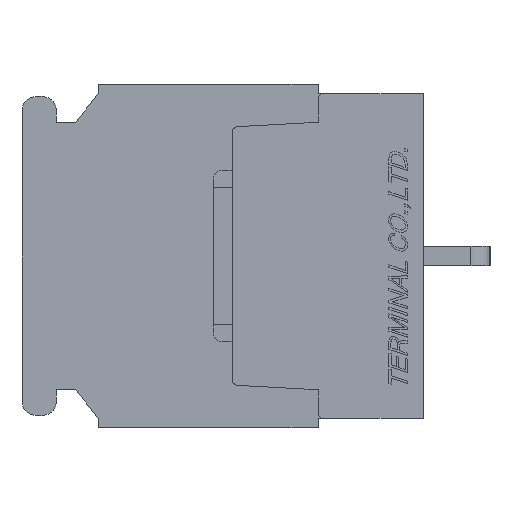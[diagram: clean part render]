
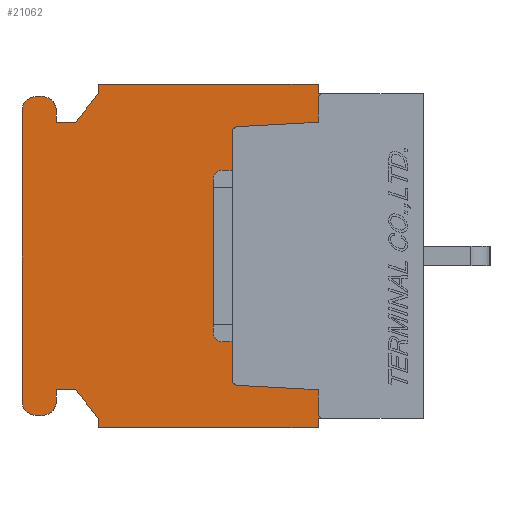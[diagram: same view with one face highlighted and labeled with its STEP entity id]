
A CAD part, left-side view. The second image highlights one B-rep face of the part: STEP entity #21062.
In plain terms, the highlighted planar face has unit normal (-1, 0, 0).
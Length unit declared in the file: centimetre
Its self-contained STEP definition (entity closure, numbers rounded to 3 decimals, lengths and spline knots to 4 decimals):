
#1020=CIRCLE('',#35680,0.03);
#1022=CIRCLE('',#35683,0.03);
#1024=CIRCLE('',#35688,0.03);
#1028=CIRCLE('',#35694,0.03);
#1036=CIRCLE('',#35851,0.075);
#1037=CIRCLE('',#35852,0.075);
#1038=CIRCLE('',#35853,0.075);
#1039=CIRCLE('',#35854,0.075);
#1751=VERTEX_POINT('',#28803);
#1752=VERTEX_POINT('',#28805);
#1755=VERTEX_POINT('',#28812);
#1756=VERTEX_POINT('',#28814);
#1758=VERTEX_POINT('',#28820);
#1760=VERTEX_POINT('',#28826);
#1762=VERTEX_POINT('',#28832);
#1767=VERTEX_POINT('',#28844);
#1768=VERTEX_POINT('',#28846);
#1770=VERTEX_POINT('',#28852);
#2129=VERTEX_POINT('',#30422);
#2130=VERTEX_POINT('',#30424);
#2131=VERTEX_POINT('',#30426);
#2132=VERTEX_POINT('',#30428);
#2133=VERTEX_POINT('',#30430);
#2134=VERTEX_POINT('',#30432);
#2135=VERTEX_POINT('',#30434);
#2136=VERTEX_POINT('',#30436);
#2137=VERTEX_POINT('',#30438);
#2138=VERTEX_POINT('',#30440);
#2139=VERTEX_POINT('',#30442);
#2140=VERTEX_POINT('',#30444);
#2141=VERTEX_POINT('',#30446);
#2142=VERTEX_POINT('',#30448);
#2143=VERTEX_POINT('',#30450);
#2144=VERTEX_POINT('',#30452);
#2145=VERTEX_POINT('',#30454);
#2146=VERTEX_POINT('',#30456);
#2147=VERTEX_POINT('',#30458);
#2148=VERTEX_POINT('',#30460);
#3980=VECTOR('',#23592,1.);
#3983=VECTOR('',#23596,1.);
#3989=VECTOR('',#23620,1.);
#3992=VECTOR('',#23624,1.);
#4394=VECTOR('',#24158,1.);
#4421=VECTOR('',#24218,1.);
#4422=VECTOR('',#24219,1.);
#4423=VECTOR('',#24220,1.);
#4424=VECTOR('',#24221,1.);
#4425=VECTOR('',#24222,1.);
#4426=VECTOR('',#24223,1.);
#4427=VECTOR('',#24224,1.);
#4428=VECTOR('',#24227,1.);
#4429=VECTOR('',#24230,1.);
#4430=VECTOR('',#24233,1.);
#4431=VECTOR('',#24236,1.);
#4432=VECTOR('',#24237,1.);
#4433=VECTOR('',#24238,1.);
#4434=VECTOR('',#24239,1.);
#4435=VECTOR('',#24240,1.);
#4436=VECTOR('',#24241,1.);
#4437=VECTOR('',#24242,1.);
#6368=LINE('',#28819,#3980);
#6371=LINE('',#28825,#3983);
#6377=LINE('',#28851,#3989);
#6380=LINE('',#28856,#3992);
#6782=LINE('',#30353,#4394);
#6809=LINE('',#30421,#4421);
#6810=LINE('',#30423,#4422);
#6811=LINE('',#30425,#4423);
#6812=LINE('',#30427,#4424);
#6813=LINE('',#30429,#4425);
#6814=LINE('',#30431,#4426);
#6815=LINE('',#30433,#4427);
#6816=LINE('',#30437,#4428);
#6817=LINE('',#30441,#4429);
#6818=LINE('',#30445,#4430);
#6819=LINE('',#30449,#4431);
#6820=LINE('',#30451,#4432);
#6821=LINE('',#30453,#4433);
#6822=LINE('',#30455,#4434);
#6823=LINE('',#30457,#4435);
#6824=LINE('',#30459,#4436);
#6825=LINE('',#30461,#4437);
#8911=EDGE_CURVE('',#1751,#1752,#1020,.T.);
#8915=EDGE_CURVE('',#1755,#1756,#1022,.T.);
#8918=EDGE_CURVE('',#1756,#1758,#6368,.T.);
#8921=EDGE_CURVE('',#1758,#1760,#6371,.T.);
#8924=EDGE_CURVE('',#1760,#1762,#1024,.T.);
#8930=EDGE_CURVE('',#1767,#1768,#1028,.T.);
#8933=EDGE_CURVE('',#1768,#1770,#6377,.T.);
#8936=EDGE_CURVE('',#1770,#1751,#6380,.T.);
#9444=EDGE_CURVE('',#1762,#1767,#6782,.T.);
#9477=EDGE_CURVE('',#1755,#2129,#6809,.T.);
#9478=EDGE_CURVE('',#2129,#2130,#6810,.T.);
#9479=EDGE_CURVE('',#2130,#2131,#6811,.T.);
#9480=EDGE_CURVE('',#2131,#2132,#6812,.T.);
#9481=EDGE_CURVE('',#2132,#2133,#6813,.T.);
#9482=EDGE_CURVE('',#2133,#2134,#6814,.T.);
#9483=EDGE_CURVE('',#2134,#2135,#6815,.T.);
#9484=EDGE_CURVE('',#2136,#2135,#1036,.T.);
#9485=EDGE_CURVE('',#2136,#2137,#6816,.T.);
#9486=EDGE_CURVE('',#2138,#2137,#1037,.T.);
#9487=EDGE_CURVE('',#2138,#2139,#6817,.T.);
#9488=EDGE_CURVE('',#2140,#2139,#1038,.T.);
#9489=EDGE_CURVE('',#2140,#2141,#6818,.T.);
#9490=EDGE_CURVE('',#2142,#2141,#1039,.T.);
#9491=EDGE_CURVE('',#2142,#2143,#6819,.T.);
#9492=EDGE_CURVE('',#2143,#2144,#6820,.T.);
#9493=EDGE_CURVE('',#2144,#2145,#6821,.T.);
#9494=EDGE_CURVE('',#2145,#2146,#6822,.T.);
#9495=EDGE_CURVE('',#2146,#2147,#6823,.T.);
#9496=EDGE_CURVE('',#2147,#2148,#6824,.T.);
#9497=EDGE_CURVE('',#2148,#1752,#6825,.T.);
#13923=ORIENTED_EDGE('',*,*,#8915,.F.);
#13924=ORIENTED_EDGE('',*,*,#9477,.T.);
#13925=ORIENTED_EDGE('',*,*,#9478,.T.);
#13926=ORIENTED_EDGE('',*,*,#9479,.T.);
#13927=ORIENTED_EDGE('',*,*,#9480,.T.);
#13928=ORIENTED_EDGE('',*,*,#9481,.T.);
#13929=ORIENTED_EDGE('',*,*,#9482,.T.);
#13930=ORIENTED_EDGE('',*,*,#9483,.T.);
#13931=ORIENTED_EDGE('',*,*,#9484,.F.);
#13932=ORIENTED_EDGE('',*,*,#9485,.T.);
#13933=ORIENTED_EDGE('',*,*,#9486,.F.);
#13934=ORIENTED_EDGE('',*,*,#9487,.T.);
#13935=ORIENTED_EDGE('',*,*,#9488,.F.);
#13936=ORIENTED_EDGE('',*,*,#9489,.T.);
#13937=ORIENTED_EDGE('',*,*,#9490,.F.);
#13938=ORIENTED_EDGE('',*,*,#9491,.T.);
#13939=ORIENTED_EDGE('',*,*,#9492,.T.);
#13940=ORIENTED_EDGE('',*,*,#9493,.T.);
#13941=ORIENTED_EDGE('',*,*,#9494,.T.);
#13942=ORIENTED_EDGE('',*,*,#9495,.T.);
#13943=ORIENTED_EDGE('',*,*,#9496,.T.);
#13944=ORIENTED_EDGE('',*,*,#9497,.T.);
#13945=ORIENTED_EDGE('',*,*,#8911,.F.);
#13946=ORIENTED_EDGE('',*,*,#8936,.F.);
#13947=ORIENTED_EDGE('',*,*,#8933,.F.);
#13948=ORIENTED_EDGE('',*,*,#8930,.F.);
#13949=ORIENTED_EDGE('',*,*,#9444,.F.);
#13950=ORIENTED_EDGE('',*,*,#8924,.F.);
#13951=ORIENTED_EDGE('',*,*,#8921,.F.);
#13952=ORIENTED_EDGE('',*,*,#8918,.F.);
#18383=EDGE_LOOP('',(#13923,#13924,#13925,#13926,#13927,#13928,#13929,#13930,
#13931,#13932,#13933,#13934,#13935,#13936,#13937,#13938,#13939,#13940,#13941,
#13942,#13943,#13944,#13945,#13946,#13947,#13948,#13949,#13950,#13951,#13952));
#19747=FACE_BOUND('',#18383,.T.);
#21062=ADVANCED_FACE('',(#19747),#22160,.F.);
#22160=PLANE('',#35850);
#23579=DIRECTION('',(-1.,0.,0.));
#23580=DIRECTION('',(0.,0.,0.03));
#23587=DIRECTION('',(-1.,0.,0.));
#23588=DIRECTION('',(0.,0.,0.03));
#23592=DIRECTION('',(0.,0.,-1.));
#23596=DIRECTION('',(0.,0.999,-0.054));
#23602=DIRECTION('',(-1.,0.,0.));
#23603=DIRECTION('',(0.,0.,0.03));
#23615=DIRECTION('',(-1.,0.,0.));
#23616=DIRECTION('',(0.,0.,0.03));
#23620=DIRECTION('',(0.,-0.999,-0.054));
#23624=DIRECTION('',(0.,0.,-1.));
#24158=DIRECTION('',(0.,0.,-1.));
#24217=DIRECTION('',(1.,0.,0.));
#24218=DIRECTION('',(0.,1.,0.));
#24219=DIRECTION('',(0.,0.,1.));
#24220=DIRECTION('',(0.,1.,0.));
#24221=DIRECTION('',(0.,0.,-1.));
#24222=DIRECTION('',(0.,0.625,-0.781));
#24223=DIRECTION('',(0.,1.,0.));
#24224=DIRECTION('',(0.,0.,1.));
#24225=DIRECTION('',(1.,0.,0.));
#24226=DIRECTION('',(0.,0.,-0.075));
#24227=DIRECTION('',(0.,1.,0.));
#24228=DIRECTION('',(1.,0.,0.));
#24229=DIRECTION('',(0.,0.,-0.075));
#24230=DIRECTION('',(0.,0.,-1.));
#24231=DIRECTION('',(1.,0.,0.));
#24232=DIRECTION('',(0.,0.,-0.075));
#24233=DIRECTION('',(0.,-1.,0.));
#24234=DIRECTION('',(1.,0.,0.));
#24235=DIRECTION('',(0.,0.,-0.075));
#24236=DIRECTION('',(0.,0.,1.));
#24237=DIRECTION('',(0.,-1.,0.));
#24238=DIRECTION('',(0.,-0.625,-0.781));
#24239=DIRECTION('',(0.,0.,-1.));
#24240=DIRECTION('',(0.,-1.,0.));
#24241=DIRECTION('',(0.,0.,1.));
#24242=DIRECTION('',(0.,-1.,0.));
#28803=CARTESIAN_POINT('',(-1.3,0.55,-0.82));
#28804=CARTESIAN_POINT('',(-1.3,0.52,-0.82));
#28805=CARTESIAN_POINT('',(-1.3,0.52,-0.85));
#28812=CARTESIAN_POINT('',(-1.3,0.52,0.85));
#28813=CARTESIAN_POINT('',(-1.3,0.52,0.82));
#28814=CARTESIAN_POINT('',(-1.3,0.55,0.82));
#28819=CARTESIAN_POINT('',(-1.3,0.55,0.82));
#28820=CARTESIAN_POINT('',(-1.3,0.55,0.7));
#28825=CARTESIAN_POINT('',(-1.3,0.55,0.7));
#28826=CARTESIAN_POINT('',(-1.3,0.9718,0.6773));
#28831=CARTESIAN_POINT('',(-1.3,0.97,0.6473));
#28832=CARTESIAN_POINT('',(-1.3,1.,0.6473));
#28844=CARTESIAN_POINT('',(-1.3,1.,-0.6473));
#28845=CARTESIAN_POINT('',(-1.3,0.97,-0.6473));
#28846=CARTESIAN_POINT('',(-1.3,0.9718,-0.6773));
#28851=CARTESIAN_POINT('',(-1.3,0.9718,-0.6773));
#28852=CARTESIAN_POINT('',(-1.3,0.55,-0.7));
#28856=CARTESIAN_POINT('',(-1.3,0.55,-0.7));
#30353=CARTESIAN_POINT('',(-1.3,1.,0.6473));
#30420=CARTESIAN_POINT('',(-1.3,1.0745,0.));
#30421=CARTESIAN_POINT('',(-1.3,0.,0.85));
#30422=CARTESIAN_POINT('',(-1.3,0.55,0.85));
#30423=CARTESIAN_POINT('',(-1.3,0.55,0.85));
#30424=CARTESIAN_POINT('',(-1.3,0.55,0.9));
#30425=CARTESIAN_POINT('',(-1.3,0.55,0.9));
#30426=CARTESIAN_POINT('',(-1.3,1.7,0.9));
#30427=CARTESIAN_POINT('',(-1.3,1.7,0.9));
#30428=CARTESIAN_POINT('',(-1.3,1.7,0.85));
#30429=CARTESIAN_POINT('',(-1.3,1.7,0.85));
#30430=CARTESIAN_POINT('',(-1.3,1.82,0.7));
#30431=CARTESIAN_POINT('',(-1.3,1.82,0.7));
#30432=CARTESIAN_POINT('',(-1.3,1.92,0.7));
#30433=CARTESIAN_POINT('',(-1.3,1.92,0.7));
#30434=CARTESIAN_POINT('',(-1.3,1.92,0.76));
#30435=CARTESIAN_POINT('',(-1.3,1.995,0.76));
#30436=CARTESIAN_POINT('',(-1.3,1.995,0.835));
#30437=CARTESIAN_POINT('',(-1.3,1.995,0.835));
#30438=CARTESIAN_POINT('',(-1.3,2.025,0.835));
#30439=CARTESIAN_POINT('',(-1.3,2.025,0.76));
#30440=CARTESIAN_POINT('',(-1.3,2.1,0.76));
#30441=CARTESIAN_POINT('',(-1.3,2.1,0.76));
#30442=CARTESIAN_POINT('',(-1.3,2.1,-0.76));
#30443=CARTESIAN_POINT('',(-1.3,2.025,-0.76));
#30444=CARTESIAN_POINT('',(-1.3,2.025,-0.835));
#30445=CARTESIAN_POINT('',(-1.3,2.025,-0.835));
#30446=CARTESIAN_POINT('',(-1.3,1.995,-0.835));
#30447=CARTESIAN_POINT('',(-1.3,1.995,-0.76));
#30448=CARTESIAN_POINT('',(-1.3,1.92,-0.76));
#30449=CARTESIAN_POINT('',(-1.3,1.92,-0.76));
#30450=CARTESIAN_POINT('',(-1.3,1.92,-0.7));
#30451=CARTESIAN_POINT('',(-1.3,1.92,-0.7));
#30452=CARTESIAN_POINT('',(-1.3,1.82,-0.7));
#30453=CARTESIAN_POINT('',(-1.3,1.82,-0.7));
#30454=CARTESIAN_POINT('',(-1.3,1.7,-0.85));
#30455=CARTESIAN_POINT('',(-1.3,1.7,-0.85));
#30456=CARTESIAN_POINT('',(-1.3,1.7,-0.9));
#30457=CARTESIAN_POINT('',(-1.3,1.7,-0.9));
#30458=CARTESIAN_POINT('',(-1.3,0.55,-0.9));
#30459=CARTESIAN_POINT('',(-1.3,0.55,-0.9));
#30460=CARTESIAN_POINT('',(-1.3,0.55,-0.85));
#30461=CARTESIAN_POINT('',(-1.3,0.55,-0.85));
#35680=AXIS2_PLACEMENT_3D('',#28804,#23579,#23580);
#35683=AXIS2_PLACEMENT_3D('',#28813,#23587,#23588);
#35688=AXIS2_PLACEMENT_3D('',#28831,#23602,#23603);
#35694=AXIS2_PLACEMENT_3D('',#28845,#23615,#23616);
#35850=AXIS2_PLACEMENT_3D('',#30420,#24217,$);
#35851=AXIS2_PLACEMENT_3D('',#30435,#24225,#24226);
#35852=AXIS2_PLACEMENT_3D('',#30439,#24228,#24229);
#35853=AXIS2_PLACEMENT_3D('',#30443,#24231,#24232);
#35854=AXIS2_PLACEMENT_3D('',#30447,#24234,#24235);
